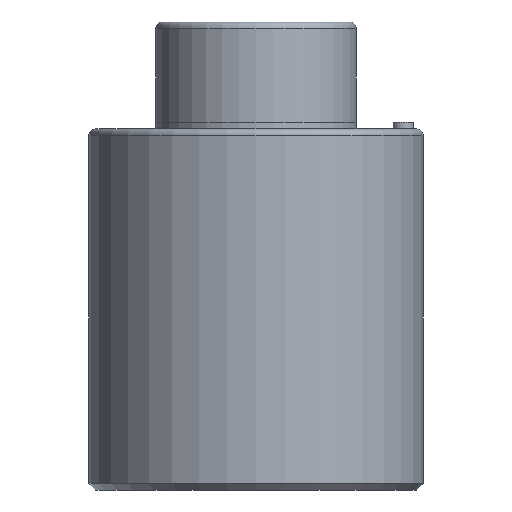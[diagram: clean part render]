
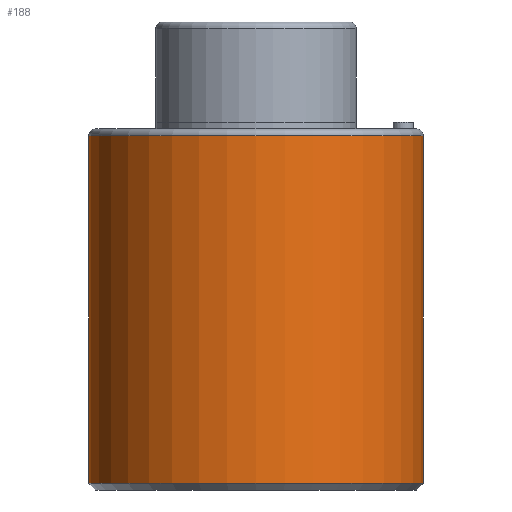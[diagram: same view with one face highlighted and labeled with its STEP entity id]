
A CAD part, front view. The second image highlights one B-rep face of the part: STEP entity #188.
In plain terms, the highlighted cylindrical face has radius 25 mm (diameter 50 mm), a partial arc.
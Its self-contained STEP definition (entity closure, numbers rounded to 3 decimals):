
#124=CYLINDRICAL_SURFACE('',#571,25.);
#140=LINE('',#827,#162);
#141=LINE('',#831,#163);
#162=VECTOR('',#672,1.);
#163=VECTOR('',#675,1.);
#188=ADVANCED_FACE('',(#224),#124,.T.);
#224=FACE_OUTER_BOUND('',#251,.T.);
#251=EDGE_LOOP('',(#313,#314,#315,#316));
#313=ORIENTED_EDGE('',*,*,#463,.T.);
#314=ORIENTED_EDGE('',*,*,#464,.F.);
#315=ORIENTED_EDGE('',*,*,#465,.F.);
#316=ORIENTED_EDGE('',*,*,#458,.T.);
#414=VERTEX_POINT('',#817);
#415=VERTEX_POINT('',#819);
#417=VERTEX_POINT('',#828);
#418=VERTEX_POINT('',#830);
#458=EDGE_CURVE('',#415,#414,#516,.T.);
#463=EDGE_CURVE('',#414,#417,#140,.T.);
#464=EDGE_CURVE('',#418,#417,#521,.T.);
#465=EDGE_CURVE('',#415,#418,#141,.T.);
#516=CIRCLE('',#563,25.);
#521=CIRCLE('',#570,25.);
#563=AXIS2_PLACEMENT_3D('',#818,#658,#659);
#570=AXIS2_PLACEMENT_3D('',#829,#673,#674);
#571=AXIS2_PLACEMENT_3D('',#832,#676,#677);
#658=DIRECTION('',(0.,0.,-1.));
#659=DIRECTION('',(0.,1.,0.));
#672=DIRECTION('',(0.,0.,-1.));
#673=DIRECTION('',(0.,0.,-1.));
#674=DIRECTION('',(0.,1.,0.));
#675=DIRECTION('',(0.,0.,-1.));
#676=DIRECTION('',(0.,0.,-1.));
#677=DIRECTION('',(0.,-1.,0.));
#817=CARTESIAN_POINT('',(-25.,0.,53.));
#818=CARTESIAN_POINT('',(0.,0.,53.));
#819=CARTESIAN_POINT('',(25.,0.,53.));
#827=CARTESIAN_POINT('',(-25.,0.,1.));
#828=CARTESIAN_POINT('',(-25.,0.,1.));
#829=CARTESIAN_POINT('',(0.,0.,1.));
#830=CARTESIAN_POINT('',(25.,0.,1.));
#831=CARTESIAN_POINT('',(25.,0.,1.));
#832=CARTESIAN_POINT('',(0.,0.,53.));
